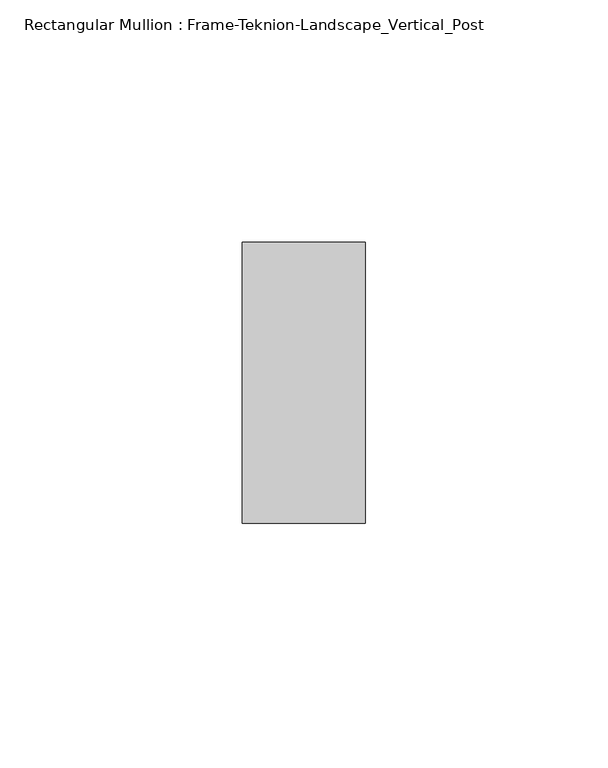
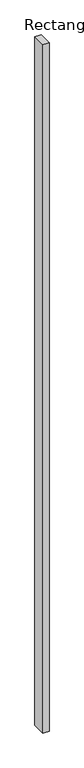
"""IFC4 building model written with IfcOpenShell, lengths in millimetres: member geometry, Rectangular Mullion : Frame-Teknion-Landscape_Vertical_Post."""

import ifcopenshell
import ifcopenshell.guid

model = None  # the IFC model being written
_history = None  # IfcOwnerHistory: only IFC2X3 demands one
_inside = {}  # id of a spatial element -> (the spatial element, [elements in it])
_under = {}  # id of a project, library or spatial element -> (it, [spatial elements below it])
_declared = {}  # id of a project -> (the project, [libraries it declares])
_typed = {}  # id of a type object -> (the type object, [elements of that type])
_made_of = {}  # id of a material, layer set ... -> (it, [elements and type objects made of it])


def new_model(schema):
    """Start an empty IFC model of exactly this schema.

    Asked for "IFC4X3", IfcOpenShell would pick the latest addendum, in which some entities
    have other attributes; the version numbers below select the first issue.
    IFC2X3 requires an IfcOwnerHistory on every rooted entity: one is made here for all.
    """
    global model, _history
    if schema == "IFC4X3":
        model = ifcopenshell.file(schema_version=(4, 3, 0, 0))
    else:
        model = ifcopenshell.file(schema=schema)
    _inside.clear()
    _under.clear()
    _declared.clear()
    _typed.clear()
    _made_of.clear()
    _history = None
    if model.schema == "IFC2X3":
        org = make("IfcOrganization", Name="unknown")
        user = make(
            "IfcPersonAndOrganization",
            ThePerson=make("IfcPerson", FamilyName="unknown"),
            TheOrganization=org,
        )
        app = make(
            "IfcApplication",
            ApplicationDeveloper=org,
            Version="unknown",
            ApplicationFullName="unknown",
            ApplicationIdentifier="unknown",
        )
        _history = make(
            "IfcOwnerHistory",
            OwningUser=user,
            OwningApplication=app,
            ChangeAction="ADDED",
            CreationDate=0,
        )
    return model


def make(cls, **values):
    """One entity of the class cls with the attributes given. An attribute that is None is left unset."""
    return model.create_entity(
        cls, **{name: value for name, value in values.items() if value is not None}
    )


def rooted(cls, **values):
    """An entity with a GlobalId (a new one), such as an element, a storey or a relation."""
    return make(cls, GlobalId=ifcopenshell.guid.new(), OwnerHistory=_history, **values)


def si_unit(unit_type, name, prefix=None):
    """IfcSIUnit, for example si_unit("LENGTHUNIT", "METRE", prefix="MILLI")."""
    return make("IfcSIUnit", UnitType=unit_type, Prefix=prefix, Name=name)


def assignment(units):
    """IfcUnitAssignment: the units of a project."""
    return None if units is None else make("IfcUnitAssignment", Units=units)


def point(xyz):
    """IfcCartesianPoint."""
    return None if xyz is None else make("IfcCartesianPoint", Coordinates=xyz)


def direction(xyz):
    """IfcDirection."""
    return None if xyz is None else make("IfcDirection", DirectionRatios=xyz)


def frame(location, z_axis=None, x_axis=None):
    """IfcAxis2Placement3D, a coordinate frame: its origin and axes. An axis left out is left unset."""
    return make(
        "IfcAxis2Placement3D",
        Location=point(location),
        Axis=direction(z_axis),
        RefDirection=direction(x_axis),
    )


def origin():
    """The frame at (0, 0, 0) with its axes left unset."""
    return frame((0.0, 0.0, 0.0))


def place(relative_to, where):
    """IfcLocalPlacement: puts the frame where relative to a parent placement (None: the world)."""
    return make(
        "IfcLocalPlacement", PlacementRelTo=relative_to, RelativePlacement=where
    )


def context(
    kind, dimensions, precision=None, world=None, true_north=None, identifier=None
):
    """IfcGeometricRepresentationContext, for example the 3D "Model" context."""
    return make(
        "IfcGeometricRepresentationContext",
        ContextIdentifier=identifier,
        ContextType=kind,
        CoordinateSpaceDimension=dimensions,
        Precision=precision,
        WorldCoordinateSystem=world,
        TrueNorth=true_north,
    )


def project(units=None, contexts=None):
    """IfcProject with its units and contexts."""
    return rooted(
        "IfcProject",
        Name="project",
        RepresentationContexts=contexts,
        UnitsInContext=assignment(units),
    )


def spatial(cls, under=None, at=None, **own):
    """A site, building, storey or space (cls), placed at a placement, below another one or the project."""
    s = rooted(cls, ObjectPlacement=at, **own)
    if under is not None:
        _under.setdefault(under.id(), (under, []))[1].append(s)
    return s


def polyline(points):
    """IfcPolyline through the points."""
    return make("IfcPolyline", Points=[point(p) for p in points])


def outline(outer, holes=None, kind="AREA"):
    """IfcArbitraryClosedProfileDef: a profile drawn as a closed curve; with holes, ...WithVoids."""
    if holes is None:
        return make("IfcArbitraryClosedProfileDef", ProfileType=kind, OuterCurve=outer)
    return make(
        "IfcArbitraryProfileDefWithVoids",
        ProfileType=kind,
        OuterCurve=outer,
        InnerCurves=holes,
    )


def extrude(swept, where, along, depth):
    """IfcExtrudedAreaSolid: the profile swept, set in the frame where, extruded along a direction by depth."""
    return make(
        "IfcExtrudedAreaSolid",
        SweptArea=swept,
        Position=where,
        ExtrudedDirection=direction(along),
        Depth=depth,
    )


def shape(context_of_items, identifier, shape_type, items):
    """IfcShapeRepresentation: the items that make up one representation, for example the "Body"."""
    return make(
        "IfcShapeRepresentation",
        ContextOfItems=context_of_items,
        RepresentationIdentifier=identifier,
        RepresentationType=shape_type,
        Items=items,
    )


def source(mapping_origin, context_of_items, identifier, shape_type, items):
    """IfcRepresentationMap: a shape defined once, which mapped items show again and again."""
    return make(
        "IfcRepresentationMap",
        MappingOrigin=mapping_origin,
        MappedRepresentation=shape(context_of_items, identifier, shape_type, items),
    )


def transform(
    local_origin,
    x_axis=None,
    y_axis=None,
    z_axis=None,
    scale=None,
    scale2=None,
    scale3=None,
    uniform=True,
):
    """IfcCartesianTransformationOperator3D, or its non-uniform kind. x_axis, y_axis, z_axis: its Axis1, 2, 3."""
    if uniform:
        return make(
            "IfcCartesianTransformationOperator3D",
            Axis1=direction(x_axis),
            Axis2=direction(y_axis),
            LocalOrigin=point(local_origin),
            Scale=scale,
            Axis3=direction(z_axis),
        )
    return make(
        "IfcCartesianTransformationOperator3DnonUniform",
        Axis1=direction(x_axis),
        Axis2=direction(y_axis),
        LocalOrigin=point(local_origin),
        Scale=scale,
        Axis3=direction(z_axis),
        Scale2=scale2,
        Scale3=scale3,
    )


def mapped(mapping_source, mapping_target):
    """IfcMappedItem: shows the shape of a source again, moved by a transform."""
    return make(
        "IfcMappedItem", MappingSource=mapping_source, MappingTarget=mapping_target
    )


def made_of(thing, what):
    """Note that an element or type object is made of a material, layer set ...; save() writes the relation."""
    if what is not None:
        _made_of.setdefault(what.id(), (what, []))[1].append(thing)
    return thing


def element(
    cls,
    number,
    at=None,
    inside=None,
    cuts=None,
    type_object=None,
    material=None,
    context=None,
    identifier="Body",
    shape_type=None,
    held_by="IfcProductDefinitionShape",
    body=None,
    shapes=None,
    **own,
):
    """One element of the class cls, such as IfcWall. Its Tag is "e" and its number.

    at: its placement. inside: the storey or other place that contains it. cuts: it is an
    opening in that element (IfcRelVoidsElement). A single representation is given by context,
    identifier, shape_type and body (its items); several are given by shapes. held_by: the class
    of the entity that holds the representations. save() writes the other relations.
    """
    e = rooted(cls, Tag="e%d" % number, ObjectPlacement=at, **own)
    if body is not None:
        shapes = [shape(context, identifier, shape_type, body)]
    if shapes is not None:
        e.Representation = make(held_by, Representations=shapes)
    if inside is not None:
        _inside.setdefault(inside.id(), (inside, []))[1].append(e)
    if cuts is not None:
        rooted(
            "IfcRelVoidsElement", RelatingBuildingElement=cuts, RelatedOpeningElement=e
        )
    if type_object is not None:
        _typed.setdefault(type_object.id(), (type_object, []))[1].append(e)
    return made_of(e, material)


def aggregate(whole, parts):
    """IfcRelAggregates: a whole, such as a stair, and the parts it consists of."""
    return rooted("IfcRelAggregates", RelatingObject=whole, RelatedObjects=parts)


def save(model, path):
    """Write the relations noted so far, then the file.

    IfcRelAggregates (storeys below a building ...), IfcRelContainedInSpatialStructure (elements
    in a storey), IfcRelDefinesByType, IfcRelAssociatesMaterial and IfcRelDeclares: one each for
    every whole, place, type object, material and project.
    """
    for whole, parts in _under.values():
        aggregate(whole, parts)
    for where, things in _inside.values():
        rooted(
            "IfcRelContainedInSpatialStructure",
            RelatedElements=things,
            RelatingStructure=where,
        )
    for kind, things in _typed.values():
        rooted("IfcRelDefinesByType", RelatedObjects=things, RelatingType=kind)
    for what, things in _made_of.values():
        rooted("IfcRelAssociatesMaterial", RelatedObjects=things, RelatingMaterial=what)
    for by, libraries in _declared.values():
        rooted("IfcRelDeclares", RelatingContext=by, RelatedDefinitions=libraries)
    model.write(path)


def rectangular_mullion_frame_teknion_landscape_vertical_post_aa214430(model_context):
    return source(origin(), model_context, "Body", "SweptSolid", [
        extrude(outline(polyline([(0.0, 28.971875), (0.0, -28.971875), (-25.4, -28.971875), (-25.4, 28.971875), (0.0, 28.971875)])), frame((0.0, 0.0, -3021.5078001), z_axis=(0.0, 0.0, 1.0), x_axis=(1.0, 0.0, 0.0)), (0.0, 0.0, 1.0), 3021.5078001),
    ])


if __name__ == "__main__":
    model = new_model("IFC4")
    model_context = context("Model", 3, world=origin())
    ifc_project = project(units=[si_unit("LENGTHUNIT", "METRE", prefix="MILLI")], contexts=[model_context])
    site = spatial("IfcSite", under=ifc_project)
    building = spatial("IfcBuilding", under=site)
    placement = place(None, origin())
    rectangular_mullion_frame_teknion_landscape_vertical_post_shape = rectangular_mullion_frame_teknion_landscape_vertical_post_aa214430(model_context)
    element("IfcMember", 1, ObjectType="Rectangular Mullion : Frame-Teknion-Landscape_Vertical_Post", at=placement, inside=building, context=model_context, shape_type="MappedRepresentation", body=[
        mapped(rectangular_mullion_frame_teknion_landscape_vertical_post_shape, transform((0.0, 0.0, 0.0), x_axis=(1.0, 0.0, 0.0), y_axis=(0.0, 1.0, 0.0), z_axis=(0.0, 0.0, 1.0))),
    ])
    save(model, "model.ifc")
